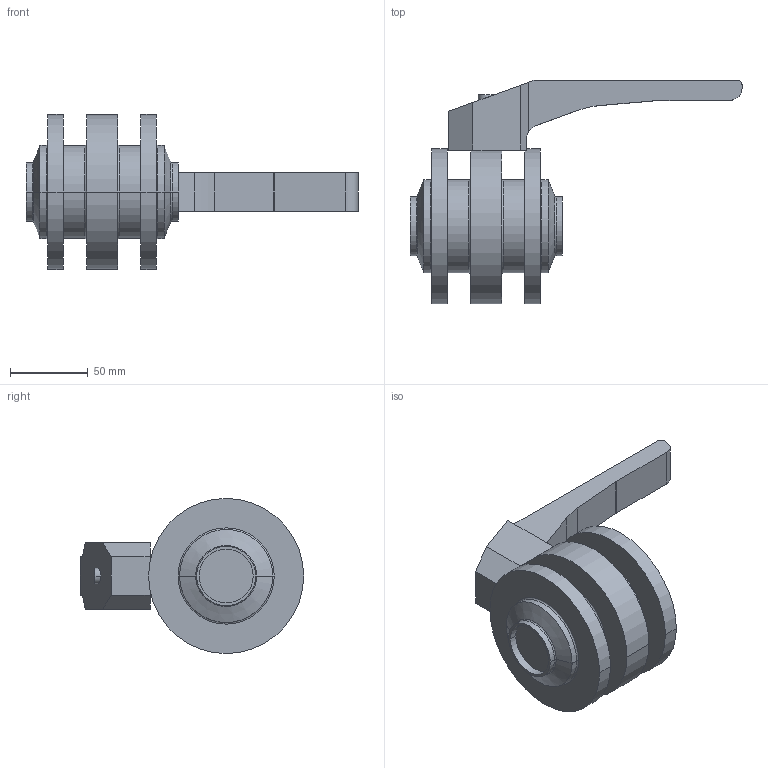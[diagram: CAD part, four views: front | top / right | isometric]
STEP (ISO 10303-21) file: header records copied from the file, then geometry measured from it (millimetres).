
FILE_DESCRIPTION(('OneSpaceDesigner STEP Export'),'2;1');
FILE_NAME('SVS1F-1.5zoll-H-12S.stp','2007-04-23T13:55:16',(''),(''),'OneSpace Designer STEP processor for AP214 (Solid Model)','OneSpace Modeling 15.00 06-Feb-2007 (C) CoCreate Software GmbH','');
FILE_SCHEMA(('AUTOMOTIVE_DESIGN { 1 0 10303 214 1 1 1 1 }'));
Length unit declared in the file: millimetre
Products named in the file (3): SVS1F-1.5zoll-H-12S; Handhebel-SV-40-100; SVS1F-1.5zoll-H-12S-vereint
Assembly tree (2 placements, depth 2):
  SVS1F-1.5zoll-H-12S-vereint
    Handhebel-SV-40-100
    SVS1F-1.5zoll-H-12S
Bounding box: 214 x 144 x 100 mm (x, y, z)
Volume: 572425.8 mm3; surface area: 79044.5 mm2
Topology: 2 solids, 2 shells, 76 faces, 167 edges, 104 vertices
Faces by surface type: cylinder 31, plane 29, torus 12, cone 4
Entity records: 2299 total; most frequent: CARTESIAN_POINT 687, ORIENTED_EDGE 334, DIRECTION 303, EDGE_CURVE 167, AXIS2_PLACEMENT_3D 113, VERTEX_POINT 104, EDGE_LOOP 85, VECTOR 77
